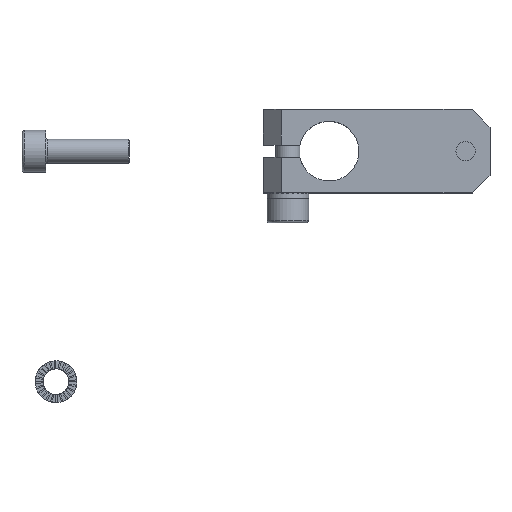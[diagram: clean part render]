
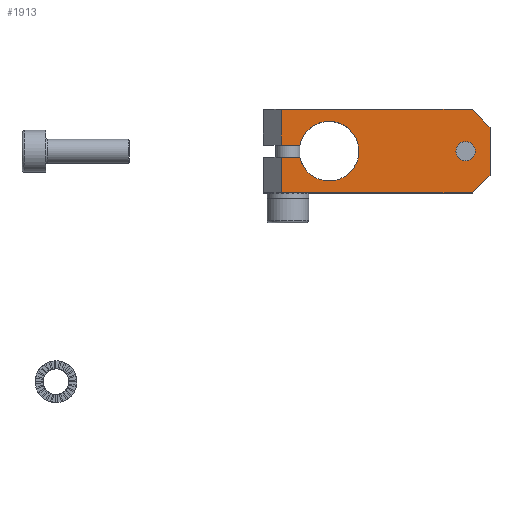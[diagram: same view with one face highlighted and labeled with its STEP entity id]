
A CAD part, top view. The second image highlights one B-rep face of the part: STEP entity #1913.
In plain terms, the highlighted planar face has unit normal (0, 0, 1).
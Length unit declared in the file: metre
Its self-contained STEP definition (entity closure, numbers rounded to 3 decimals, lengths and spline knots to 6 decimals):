
#1913 = ADVANCED_FACE( '', ( #4108, #4109 ), #4110, .F. );
#4108 = FACE_BOUND( '', #5404, .T. );
#4109 = FACE_OUTER_BOUND( '', #5405, .T. );
#4110 = PLANE( '', #5406 );
#5404 = EDGE_LOOP( '', ( #7171 ) );
#5405 = EDGE_LOOP( '', ( #7172, #7173, #7174, #7175, #7176, #7177, #7178, #7179, #7180, #7181 ) );
#5406 = AXIS2_PLACEMENT_3D( '', #7182, #7183, #7184 );
#7171 = ORIENTED_EDGE( '', *, *, #10796, .F. );
#7172 = ORIENTED_EDGE( '', *, *, #10774, .F. );
#7173 = ORIENTED_EDGE( '', *, *, #10793, .T. );
#7174 = ORIENTED_EDGE( '', *, *, #10785, .F. );
#7175 = ORIENTED_EDGE( '', *, *, #10797, .T. );
#7176 = ORIENTED_EDGE( '', *, *, #10739, .F. );
#7177 = ORIENTED_EDGE( '', *, *, #10798, .T. );
#7178 = ORIENTED_EDGE( '', *, *, #10763, .F. );
#7179 = ORIENTED_EDGE( '', *, *, #10799, .T. );
#7180 = ORIENTED_EDGE( '', *, *, #10800, .F. );
#7181 = ORIENTED_EDGE( '', *, *, #10781, .T. );
#7182 = CARTESIAN_POINT( '', ( -0.019, 0.007, 0.014 ) );
#7183 = DIRECTION( '', ( 0., 0., -1. ) );
#7184 = DIRECTION( '', ( -1., 0., 0. ) );
#10739 = EDGE_CURVE( '', #12397, #12398, #12399, .T. );
#10763 = EDGE_CURVE( '', #12441, #12443, #12444, .T. );
#10774 = EDGE_CURVE( '', #12460, #12462, #12463, .T. );
#10781 = EDGE_CURVE( '', #12474, #12462, #12475, .T. );
#10785 = EDGE_CURVE( '', #12481, #12482, #12483, .T. );
#10793 = EDGE_CURVE( '', #12460, #12482, #12496, .T. );
#10796 = EDGE_CURVE( '', #12499, #12499, #12500, .T. );
#10797 = EDGE_CURVE( '', #12481, #12398, #12501, .F. );
#10798 = EDGE_CURVE( '', #12397, #12443, #12502, .F. );
#10799 = EDGE_CURVE( '', #12441, #12503, #12504, .T. );
#10800 = EDGE_CURVE( '', #12474, #12503, #12505, .T. );
#12397 = VERTEX_POINT( '', #13567 );
#12398 = VERTEX_POINT( '', #13568 );
#12399 = LINE( '', #13569, #13570 );
#12441 = VERTEX_POINT( '', #13637 );
#12443 = VERTEX_POINT( '', #13640 );
#12444 = LINE( '', #13641, #13642 );
#12460 = VERTEX_POINT( '', #13667 );
#12462 = VERTEX_POINT( '', #13670 );
#12463 = LINE( '', #13671, #13672 );
#12474 = VERTEX_POINT( '', #13696 );
#12475 = CIRCLE( '', #13697, 0.005 );
#12481 = VERTEX_POINT( '', #13704 );
#12482 = VERTEX_POINT( '', #13705 );
#12483 = LINE( '', #13706, #13707 );
#12496 = LINE( '', #13727, #13728 );
#12499 = VERTEX_POINT( '', #13733 );
#12500 = CIRCLE( '', #13734, 0.001621 );
#12501 = LINE( '', #13735, #13736 );
#12502 = LINE( '', #13737, #13738 );
#12503 = VERTEX_POINT( '', #13739 );
#12504 = LINE( '', #13740, #13741 );
#12505 = LINE( '', #13742, #13743 );
#13567 = CARTESIAN_POINT( '', ( 0.019, 0.004, 0.014 ) );
#13568 = CARTESIAN_POINT( '', ( 0.019, -0.004, 0.014 ) );
#13569 = CARTESIAN_POINT( '', ( 0.019, 0.007, 0.014 ) );
#13570 = VECTOR( '', #15233, 1. );
#13637 = CARTESIAN_POINT( '', ( -0.016, 0.007, 0.014 ) );
#13640 = CARTESIAN_POINT( '', ( 0.016, 0.007, 0.014 ) );
#13641 = CARTESIAN_POINT( '', ( -0.019, 0.007, 0.014 ) );
#13642 = VECTOR( '', #15266, 1. );
#13667 = CARTESIAN_POINT( '', ( -0.016, -0.001, 0.014 ) );
#13670 = CARTESIAN_POINT( '', ( -0.012899, -0.001, 0.014 ) );
#13671 = CARTESIAN_POINT( '', ( -0.019, -0.001, 0.014 ) );
#13672 = VECTOR( '', #15277, 1. );
#13696 = CARTESIAN_POINT( '', ( -0.012899, 0.001, 0.014 ) );
#13697 = AXIS2_PLACEMENT_3D( '', #15285, #15286, #15287 );
#13704 = CARTESIAN_POINT( '', ( 0.016, -0.007, 0.014 ) );
#13705 = CARTESIAN_POINT( '', ( -0.016, -0.007, 0.014 ) );
#13706 = CARTESIAN_POINT( '', ( 0.019, -0.007, 0.014 ) );
#13707 = VECTOR( '', #15295, 1. );
#13727 = CARTESIAN_POINT( '', ( -0.016, -0.007, 0.014 ) );
#13728 = VECTOR( '', #15303, 1. );
#13733 = CARTESIAN_POINT( '', ( 0.016521, 0., 0.014 ) );
#13734 = AXIS2_PLACEMENT_3D( '', #15306, #15307, #15308 );
#13735 = CARTESIAN_POINT( '', ( 0.019, -0.004, 0.014 ) );
#13736 = VECTOR( '', #15309, 1. );
#13737 = CARTESIAN_POINT( '', ( 0.016, 0.007, 0.014 ) );
#13738 = VECTOR( '', #15310, 1. );
#13739 = CARTESIAN_POINT( '', ( -0.016, 0.001, 0.014 ) );
#13740 = CARTESIAN_POINT( '', ( -0.016, 0.001, 0.014 ) );
#13741 = VECTOR( '', #15311, 1. );
#13742 = CARTESIAN_POINT( '', ( -0.019, 0.001, 0.014 ) );
#13743 = VECTOR( '', #15312, 1. );
#15233 = DIRECTION( '', ( 0., -1., 0. ) );
#15266 = DIRECTION( '', ( 1., 0., 0. ) );
#15277 = DIRECTION( '', ( 1., 0., 0. ) );
#15285 = CARTESIAN_POINT( '', ( -0.008, 0., 0.014 ) );
#15286 = DIRECTION( '', ( 0., 0., -1. ) );
#15287 = DIRECTION( '', ( -1., 0., 0. ) );
#15295 = DIRECTION( '', ( -1., 0., 0. ) );
#15303 = DIRECTION( '', ( 0., -1., 0. ) );
#15306 = CARTESIAN_POINT( '', ( 0.0149, 0., 0.014 ) );
#15307 = DIRECTION( '', ( 0., 0., 1. ) );
#15308 = DIRECTION( '', ( 1., 0., 0. ) );
#15309 = DIRECTION( '', ( -0.707, -0.707, 0. ) );
#15310 = DIRECTION( '', ( 0.707, -0.707, 0. ) );
#15311 = DIRECTION( '', ( 0., -1., 0. ) );
#15312 = DIRECTION( '', ( -1., 0., 0. ) );
